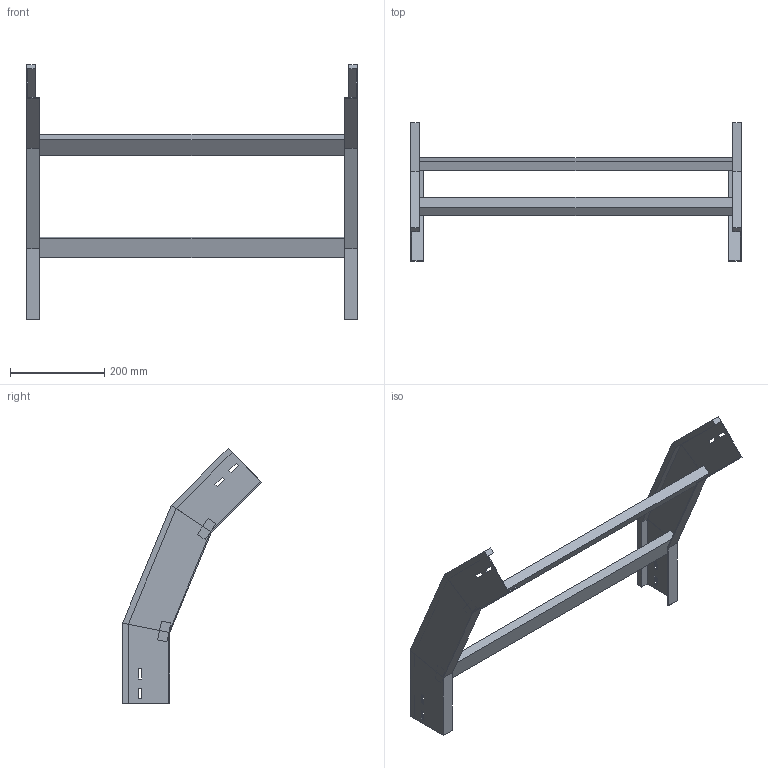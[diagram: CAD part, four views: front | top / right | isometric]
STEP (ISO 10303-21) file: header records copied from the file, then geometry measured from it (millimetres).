
FILE_DESCRIPTION (( 'STEP AP214' ), '1' );
FILE_NAME ('A2_34B3D700.step', '2025-02-21T14:51:46', ( '' ), ( '' ), 'SwSTEP 2.0', 'SolidWorks 2023', '' );
FILE_SCHEMA (( 'AUTOMOTIVE_DESIGN' ));
Length unit declared in the file: millimetre
Products named in the file (3): TRAVERSINO_700; A2_34B3D700; LONGH.DISCESA_45°_H100_R300
Assembly tree (5 placements, depth 2):
  A2_34B3D700
    LONGH.DISCESA_45°_H100_R300  x2
    TRAVERSINO_700  x3
Bounding box: 700 x 294.08 x 539.27 mm (x, y, z)
Volume: 2202048.3 mm3; surface area: 581997.4 mm2
Topology: 5 solids, 5 shells, 102 faces, 244 edges, 152 vertices
Faces by surface type: plane 102
Entity records: 1480 total; most frequent: CARTESIAN_POINT 244, ORIENTED_EDGE 232, DIRECTION 228, LINE 116, EDGE_CURVE 116, VECTOR 116, VERTEX_POINT 72, EDGE_LOOP 56
